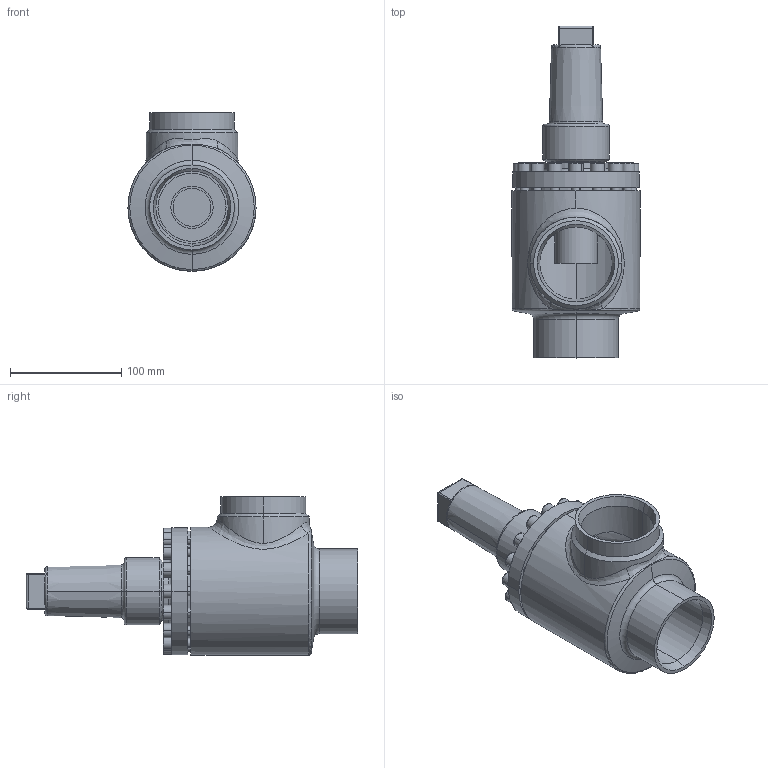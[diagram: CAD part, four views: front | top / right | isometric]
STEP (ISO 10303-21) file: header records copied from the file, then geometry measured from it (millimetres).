
FILE_DESCRIPTION (( 'STEP AP214' ), '1' );
FILE_NAME ('HRAR22400D17-DN065_R1_PS40.STEP', '2006-04-27T13:00:43', ( 'Herr Grams' ), ( 'AWP GmbH' ), 'SwSTEP 2.0', 'SolidWorks 2002296', '' );
FILE_SCHEMA (( 'AUTOMOTIVE_DESIGN' ));
Length unit declared in the file: millimetre
Products named in the file (6): HRAR22400D17-DN065_R1_PS40; Kappe16402_DN040-65_Standard; AVR26300K17_Deck+Schr-DN65_Standard; Deckel26300K17-DN65_Standard; Zylinderschraube-DIN912_M 8x 25; Gehäuse16400-DN065_Standard
Assembly tree (20 placements, depth 3):
  HRAR22400D17-DN065_R1_PS40
    AVR26300K17_Deck+Schr-DN65_Standard
      Zylinderschraube-DIN912_M 8x 25  x16
      Deckel26300K17-DN65_Standard
    Gehäuse16400-DN065_Standard
    Kappe16402_DN040-65_Standard
Bounding box: 115 x 298 x 142.5 mm (x, y, z)
Volume: 916276.8 mm3; surface area: 214364.2 mm2
Topology: 19 solids, 19 shells, 446 faces, 984 edges, 622 vertices
Faces by surface type: plane 191, cylinder 154, cone 52, torus 47, bspline 2
Entity records: 16274 total; most frequent: CARTESIAN_POINT 11381, DIRECTION 992, ORIENTED_EDGE 828, AXIS2_PLACEMENT_3D 422, EDGE_CURVE 414, VERTEX_POINT 262, EDGE_LOOP 228, CIRCLE 224
